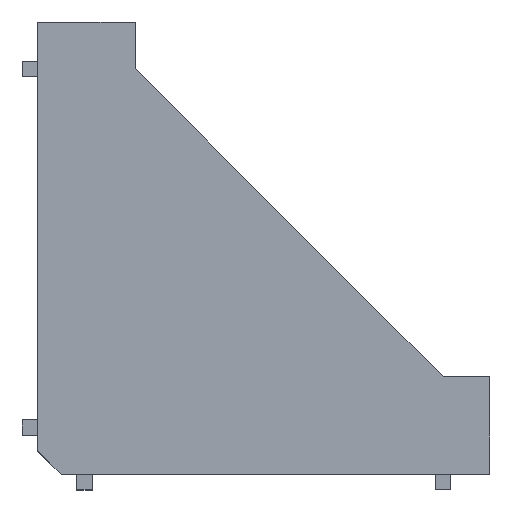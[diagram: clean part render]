
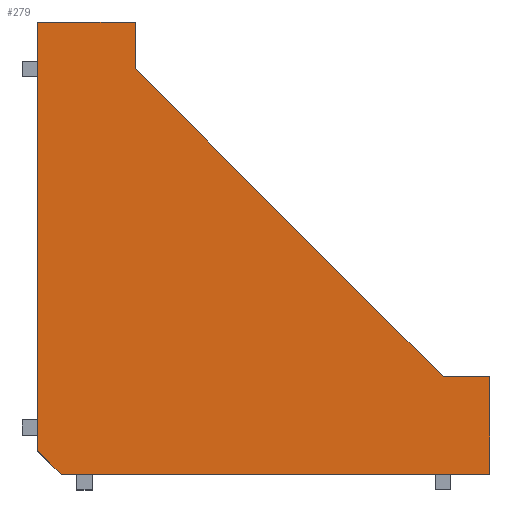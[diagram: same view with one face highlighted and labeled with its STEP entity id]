
A CAD part, top view. The second image highlights one B-rep face of the part: STEP entity #279.
In plain terms, the highlighted planar face has unit normal (0, 0, 1).
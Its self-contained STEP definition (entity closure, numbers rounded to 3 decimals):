
#4 = VERTEX_POINT ( 'NONE', #745 ) ;
#24 = ORIENTED_EDGE ( 'NONE', *, *, #188, .T. ) ;
#79 = EDGE_CURVE ( 'NONE', #1532, #2229, #885, .T. ) ;
#179 = ORIENTED_EDGE ( 'NONE', *, *, #1035, .T. ) ;
#187 = LINE ( 'NONE', #2292, #794 ) ;
#188 = EDGE_CURVE ( 'NONE', #818, #1464, #2320, .T. ) ;
#196 = VECTOR ( 'NONE', #2312, 1000. ) ;
#210 = CARTESIAN_POINT ( 'NONE',  ( -29.888, 51.484, 29. ) ) ;
#230 = DIRECTION ( 'NONE',  ( 0., 0., -1. ) ) ;
#231 = CARTESIAN_POINT ( 'NONE',  ( -42.388, -0.516, 29. ) ) ;
#263 = CARTESIAN_POINT ( 'NONE',  ( -42.388, 2.484, 29. ) ) ;
#279 = ADVANCED_FACE ( 'NONE', ( #472 ), #1473, .F. ) ;
#291 = CARTESIAN_POINT ( 'NONE',  ( -29.888, 51.484, 29. ) ) ;
#401 = EDGE_CURVE ( 'NONE', #1272, #2047, #2178, .T. ) ;
#415 = CARTESIAN_POINT ( 'NONE',  ( -42.388, 57.484, 29. ) ) ;
#442 = CARTESIAN_POINT ( 'NONE',  ( -29.888, 57.484, 29. ) ) ;
#472 = FACE_OUTER_BOUND ( 'NONE', #1910, .T. ) ;
#480 = CARTESIAN_POINT ( 'NONE',  ( -42.388, 57.484, 29. ) ) ;
#481 = LINE ( 'NONE', #231, #1521 ) ;
#703 = DIRECTION ( 'NONE',  ( -1., 0., 0. ) ) ;
#745 = CARTESIAN_POINT ( 'NONE',  ( 15.612, -0.516, 29. ) ) ;
#794 = VECTOR ( 'NONE', #2056, 1000. ) ;
#805 = VECTOR ( 'NONE', #1725, 1000. ) ;
#818 = VERTEX_POINT ( 'NONE', #263 ) ;
#832 = EDGE_CURVE ( 'NONE', #2229, #1272, #1685, .T. ) ;
#885 = LINE ( 'NONE', #2236, #1901 ) ;
#948 = CARTESIAN_POINT ( 'NONE',  ( -42.388, 57.484, 29. ) ) ;
#975 = AXIS2_PLACEMENT_3D ( 'NONE', #480, #230, #2331 ) ;
#1035 = EDGE_CURVE ( 'NONE', #1464, #4, #1718, .T. ) ;
#1147 = ORIENTED_EDGE ( 'NONE', *, *, #1308, .T. ) ;
#1182 = CARTESIAN_POINT ( 'NONE',  ( -39.388, -0.516, 29. ) ) ;
#1198 = ORIENTED_EDGE ( 'NONE', *, *, #832, .T. ) ;
#1248 = DIRECTION ( 'NONE',  ( 1., 0., 0. ) ) ;
#1272 = VERTEX_POINT ( 'NONE', #291 ) ;
#1308 = EDGE_CURVE ( 'NONE', #1825, #818, #481, .T. ) ;
#1328 = ORIENTED_EDGE ( 'NONE', *, *, #2022, .T. ) ;
#1419 = ORIENTED_EDGE ( 'NONE', *, *, #79, .T. ) ;
#1443 = LINE ( 'NONE', #948, #2013 ) ;
#1464 = VERTEX_POINT ( 'NONE', #1182 ) ;
#1473 = PLANE ( 'NONE',  #975 ) ;
#1482 = EDGE_CURVE ( 'NONE', #4, #1532, #187, .T. ) ;
#1487 = CARTESIAN_POINT ( 'NONE',  ( 15.612, -0.516, 29. ) ) ;
#1500 = CARTESIAN_POINT ( 'NONE',  ( 15.612, 11.984, 29. ) ) ;
#1521 = VECTOR ( 'NONE', #2333, 1000. ) ;
#1532 = VERTEX_POINT ( 'NONE', #1500 ) ;
#1638 = DIRECTION ( 'NONE',  ( 0.707, -0.707, 0. ) ) ;
#1685 = LINE ( 'NONE', #210, #196 ) ;
#1710 = ORIENTED_EDGE ( 'NONE', *, *, #401, .T. ) ;
#1718 = LINE ( 'NONE', #1487, #2296 ) ;
#1725 = DIRECTION ( 'NONE',  ( 0., 1., 0. ) ) ;
#1825 = VERTEX_POINT ( 'NONE', #415 ) ;
#1861 = CARTESIAN_POINT ( 'NONE',  ( -39.388, -0.516, 29. ) ) ;
#1901 = VECTOR ( 'NONE', #2008, 1000. ) ;
#1910 = EDGE_LOOP ( 'NONE', ( #1147, #24, #179, #2278, #1419, #1198, #1710, #1328 ) ) ;
#1951 = CARTESIAN_POINT ( 'NONE',  ( -29.888, 57.484, 29. ) ) ;
#1973 = CARTESIAN_POINT ( 'NONE',  ( 9.612, 11.984, 29. ) ) ;
#2008 = DIRECTION ( 'NONE',  ( -1., 0., 0. ) ) ;
#2013 = VECTOR ( 'NONE', #703, 1000. ) ;
#2022 = EDGE_CURVE ( 'NONE', #2047, #1825, #1443, .T. ) ;
#2047 = VERTEX_POINT ( 'NONE', #442 ) ;
#2056 = DIRECTION ( 'NONE',  ( 0., 1., 0. ) ) ;
#2088 = VECTOR ( 'NONE', #1638, 1000. ) ;
#2178 = LINE ( 'NONE', #1951, #805 ) ;
#2229 = VERTEX_POINT ( 'NONE', #1973 ) ;
#2236 = CARTESIAN_POINT ( 'NONE',  ( 15.612, 11.984, 29. ) ) ;
#2278 = ORIENTED_EDGE ( 'NONE', *, *, #1482, .T. ) ;
#2292 = CARTESIAN_POINT ( 'NONE',  ( 15.612, 5.484, 29. ) ) ;
#2296 = VECTOR ( 'NONE', #1248, 1000. ) ;
#2312 = DIRECTION ( 'NONE',  ( -0.707, 0.707, 0. ) ) ;
#2320 = LINE ( 'NONE', #1861, #2088 ) ;
#2331 = DIRECTION ( 'NONE',  ( -1., 0., 0. ) ) ;
#2333 = DIRECTION ( 'NONE',  ( 0., -1., 0. ) ) ;
